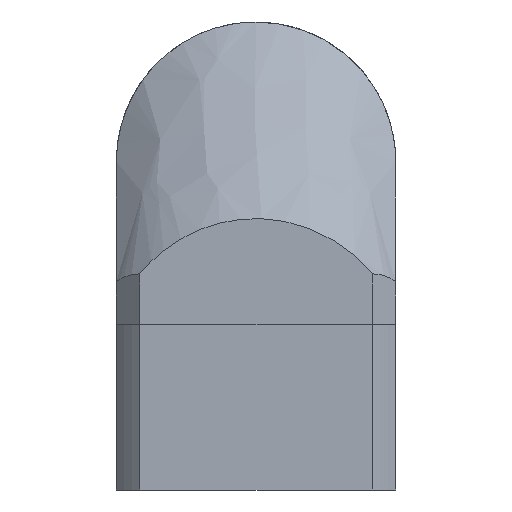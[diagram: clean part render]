
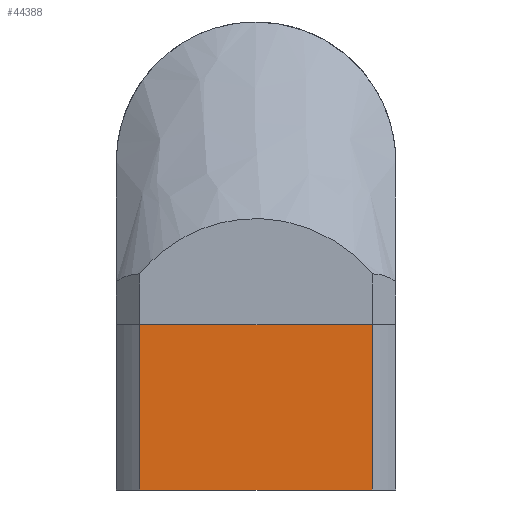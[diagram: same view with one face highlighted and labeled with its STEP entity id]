
A CAD part, front view. The second image highlights one B-rep face of the part: STEP entity #44388.
In plain terms, the highlighted planar face has unit normal (0, -1, 0).
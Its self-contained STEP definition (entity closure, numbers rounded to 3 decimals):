
#890 = VECTOR ( 'NONE', #5956, 1000. ) ;
#1503 = LINE ( 'NONE', #16202, #27957 ) ;
#5956 = DIRECTION ( 'NONE',  ( 0., 0., -1. ) ) ;
#9178 = VERTEX_POINT ( 'NONE', #39311 ) ;
#9784 = VERTEX_POINT ( 'NONE', #20858 ) ;
#10635 = FACE_OUTER_BOUND ( 'NONE', #11703, .T. ) ;
#11703 = EDGE_LOOP ( 'NONE', ( #13326, #30032, #20096, #23087 ) ) ;
#13205 = DIRECTION ( 'NONE',  ( 0., 0., 1. ) ) ;
#13326 = ORIENTED_EDGE ( 'NONE', *, *, #21389, .T. ) ;
#16202 = CARTESIAN_POINT ( 'NONE',  ( 0., -30., -35.5 ) ) ;
#16425 = CARTESIAN_POINT ( 'NONE',  ( -24.92, -30., -35.5 ) ) ;
#16530 = VERTEX_POINT ( 'NONE', #42211 ) ;
#18230 = DIRECTION ( 'NONE',  ( -1., 0., 0. ) ) ;
#20096 = ORIENTED_EDGE ( 'NONE', *, *, #22829, .T. ) ;
#20858 = CARTESIAN_POINT ( 'NONE',  ( -24.92, -30., -35.5 ) ) ;
#21389 = EDGE_CURVE ( 'NONE', #16530, #9784, #27364, .T. ) ;
#21451 = VERTEX_POINT ( 'NONE', #40636 ) ;
#21926 = VECTOR ( 'NONE', #13205, 1000. ) ;
#22829 = EDGE_CURVE ( 'NONE', #21451, #9178, #22998, .T. ) ;
#22998 = LINE ( 'NONE', #40589, #21926 ) ;
#23087 = ORIENTED_EDGE ( 'NONE', *, *, #37685, .T. ) ;
#24001 = DIRECTION ( 'NONE',  ( 0., 0., -1. ) ) ;
#26709 = VECTOR ( 'NONE', #18230, 1000. ) ;
#27364 = LINE ( 'NONE', #16425, #890 ) ;
#27781 = LINE ( 'NONE', #38662, #26709 ) ;
#27957 = VECTOR ( 'NONE', #40123, 1000. ) ;
#30032 = ORIENTED_EDGE ( 'NONE', *, *, #43467, .T. ) ;
#33979 = PLANE ( 'NONE',  #37153 ) ;
#34126 = CARTESIAN_POINT ( 'NONE',  ( -30., -30., -35.5 ) ) ;
#37153 = AXIS2_PLACEMENT_3D ( 'NONE', #34126, #44322, #24001 ) ;
#37685 = EDGE_CURVE ( 'NONE', #9178, #16530, #27781, .T. ) ;
#38662 = CARTESIAN_POINT ( 'NONE',  ( 0., -30., 0. ) ) ;
#39311 = CARTESIAN_POINT ( 'NONE',  ( 24.92, -30., 0. ) ) ;
#40123 = DIRECTION ( 'NONE',  ( 1., 0., 0. ) ) ;
#40589 = CARTESIAN_POINT ( 'NONE',  ( 24.92, -30., -35.5 ) ) ;
#40636 = CARTESIAN_POINT ( 'NONE',  ( 24.92, -30., -35.5 ) ) ;
#42211 = CARTESIAN_POINT ( 'NONE',  ( -24.92, -30., 0. ) ) ;
#43467 = EDGE_CURVE ( 'NONE', #9784, #21451, #1503, .T. ) ;
#44322 = DIRECTION ( 'NONE',  ( 0., -1., 0. ) ) ;
#44388 = ADVANCED_FACE ( 'NONE', ( #10635 ), #33979, .T. ) ;
